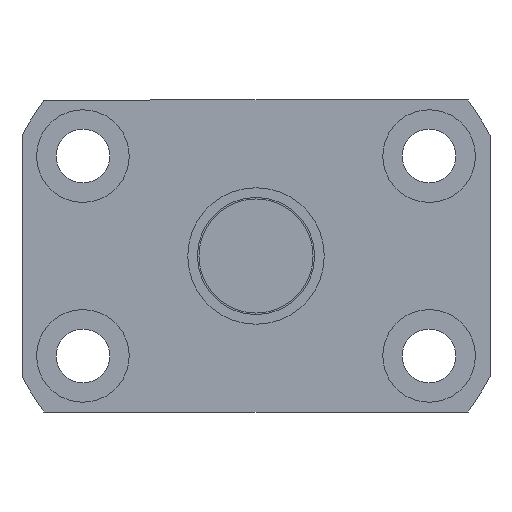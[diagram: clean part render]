
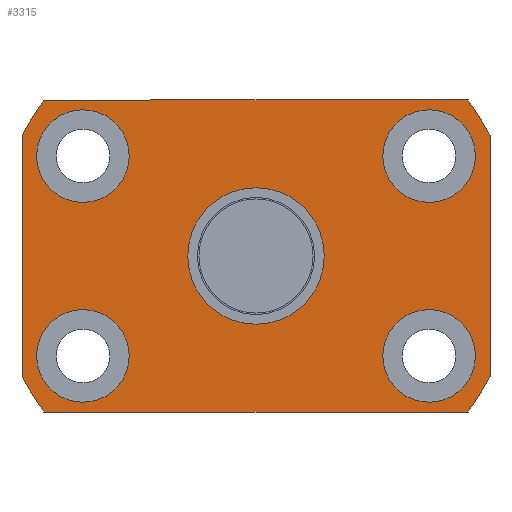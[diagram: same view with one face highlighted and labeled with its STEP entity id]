
A CAD part, left-side view. The second image highlights one B-rep face of the part: STEP entity #3315.
In plain terms, the highlighted planar face has unit normal (-1, 0, 0).
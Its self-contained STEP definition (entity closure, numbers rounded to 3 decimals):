
#479=CARTESIAN_POINT('',(302.999,22.504,-10.25));
#480=VERTEX_POINT('',#479);
#481=CARTESIAN_POINT('',(302.999,17.754,-10.25));
#482=DIRECTION('',(1.0,0.0,0.0));
#483=DIRECTION('',(0.0,1.0,0.0));
#484=AXIS2_PLACEMENT_3D('',#481,#482,#483);
#485=CIRCLE('',#484,4.75);
#486=EDGE_CURVE('',#480,#480,#485,.T.);
#547=CARTESIAN_POINT('',(302.999,-13.004,10.25));
#548=VERTEX_POINT('',#547);
#549=CARTESIAN_POINT('',(302.999,-17.754,10.25));
#550=DIRECTION('',(1.0,0.0,0.0));
#551=DIRECTION('',(0.0,1.0,0.0));
#552=AXIS2_PLACEMENT_3D('',#549,#550,#551);
#553=CIRCLE('',#552,4.75);
#554=EDGE_CURVE('',#548,#548,#553,.T.);
#615=CARTESIAN_POINT('',(302.999,22.504,10.25));
#616=VERTEX_POINT('',#615);
#617=CARTESIAN_POINT('',(302.999,17.754,10.25));
#618=DIRECTION('',(1.0,0.0,0.0));
#619=DIRECTION('',(0.0,1.0,0.0));
#620=AXIS2_PLACEMENT_3D('',#617,#618,#619);
#621=CIRCLE('',#620,4.75);
#622=EDGE_CURVE('',#616,#616,#621,.T.);
#683=CARTESIAN_POINT('',(302.999,-13.004,-10.25));
#684=VERTEX_POINT('',#683);
#685=CARTESIAN_POINT('',(302.999,-17.754,-10.25));
#686=DIRECTION('',(1.0,0.0,0.0));
#687=DIRECTION('',(0.0,1.0,0.0));
#688=AXIS2_PLACEMENT_3D('',#685,#686,#687);
#689=CIRCLE('',#688,4.75);
#690=EDGE_CURVE('',#684,#684,#689,.T.);
#3017=CARTESIAN_POINT('',(302.999,-21.749,16.));
#3018=VERTEX_POINT('',#3017);
#3025=CARTESIAN_POINT('',(302.999,-24.,12.369));
#3026=VERTEX_POINT('',#3025);
#3027=CARTESIAN_POINT('',(302.999,0.,0.0));
#3028=DIRECTION('',(1.0,0.0,0.0));
#3029=DIRECTION('',(0.0,1.0,0.0));
#3030=AXIS2_PLACEMENT_3D('',#3027,#3028,#3029);
#3031=CIRCLE('',#3030,27.0);
#3032=EDGE_CURVE('',#3018,#3026,#3031,.T.);
#3049=CARTESIAN_POINT('',(302.999,21.749,16.));
#3050=VERTEX_POINT('',#3049);
#3057=CARTESIAN_POINT('',(302.999,21.749,16.));
#3058=DIRECTION('',(0.0,-1.0,0.0));
#3059=VECTOR('',#3058,43.497);
#3060=LINE('',#3057,#3059);
#3061=EDGE_CURVE('',#3050,#3018,#3060,.T.);
#3073=CARTESIAN_POINT('',(302.999,24.,12.369));
#3074=VERTEX_POINT('',#3073);
#3081=CARTESIAN_POINT('',(302.999,0.,0.0));
#3082=DIRECTION('',(1.0,0.0,0.0));
#3083=DIRECTION('',(0.0,1.0,0.0));
#3084=AXIS2_PLACEMENT_3D('',#3081,#3082,#3083);
#3085=CIRCLE('',#3084,27.0);
#3086=EDGE_CURVE('',#3074,#3050,#3085,.T.);
#3098=CARTESIAN_POINT('',(302.999,24.,-12.369));
#3099=VERTEX_POINT('',#3098);
#3106=CARTESIAN_POINT('',(302.999,24.,-12.369));
#3107=DIRECTION('',(0.0,0.0,1.0));
#3108=VECTOR('',#3107,24.739);
#3109=LINE('',#3106,#3108);
#3110=EDGE_CURVE('',#3099,#3074,#3109,.T.);
#3122=CARTESIAN_POINT('',(302.999,21.749,-16.));
#3123=VERTEX_POINT('',#3122);
#3130=CARTESIAN_POINT('',(302.999,0.,0.0));
#3131=DIRECTION('',(1.0,0.0,0.0));
#3132=DIRECTION('',(0.0,1.0,0.0));
#3133=AXIS2_PLACEMENT_3D('',#3130,#3131,#3132);
#3134=CIRCLE('',#3133,27.0);
#3135=EDGE_CURVE('',#3123,#3099,#3134,.T.);
#3147=CARTESIAN_POINT('',(302.999,-21.749,-16.));
#3148=VERTEX_POINT('',#3147);
#3155=CARTESIAN_POINT('',(302.999,-21.749,-16.));
#3156=DIRECTION('',(0.0,1.0,0.0));
#3157=VECTOR('',#3156,43.497);
#3158=LINE('',#3155,#3157);
#3159=EDGE_CURVE('',#3148,#3123,#3158,.T.);
#3171=CARTESIAN_POINT('',(302.999,-24.,-12.369));
#3172=VERTEX_POINT('',#3171);
#3179=CARTESIAN_POINT('',(302.999,0.,0.0));
#3180=DIRECTION('',(1.0,0.0,0.0));
#3181=DIRECTION('',(0.0,1.0,0.0));
#3182=AXIS2_PLACEMENT_3D('',#3179,#3180,#3181);
#3183=CIRCLE('',#3182,27.0);
#3184=EDGE_CURVE('',#3172,#3148,#3183,.T.);
#3197=CARTESIAN_POINT('',(302.999,-24.,12.369));
#3198=DIRECTION('',(0.0,0.0,-1.0));
#3199=VECTOR('',#3198,24.739);
#3200=LINE('',#3197,#3199);
#3201=EDGE_CURVE('',#3026,#3172,#3200,.T.);
#3212=CARTESIAN_POINT('',(302.999,7.,0.0));
#3213=VERTEX_POINT('',#3212);
#3214=CARTESIAN_POINT('',(302.999,0.,0.0));
#3215=DIRECTION('',(1.0,0.0,0.0));
#3216=DIRECTION('',(0.0,1.0,0.0));
#3217=AXIS2_PLACEMENT_3D('',#3214,#3215,#3216);
#3218=CIRCLE('',#3217,7.);
#3219=EDGE_CURVE('',#3213,#3213,#3218,.T.);
#3285=CARTESIAN_POINT('',(302.999,11.,0.0));
#3286=DIRECTION('',(-1.0,0.0,0.0));
#3287=DIRECTION('',(0.0,0.0,1.0));
#3288=AXIS2_PLACEMENT_3D('',#3285,#3286,#3287);
#3289=PLANE('',#3288);
#3290=ORIENTED_EDGE('',*,*,#3110,.F.);
#3291=ORIENTED_EDGE('',*,*,#3135,.F.);
#3292=ORIENTED_EDGE('',*,*,#3159,.F.);
#3293=ORIENTED_EDGE('',*,*,#3184,.F.);
#3294=ORIENTED_EDGE('',*,*,#3201,.F.);
#3295=ORIENTED_EDGE('',*,*,#3032,.F.);
#3296=ORIENTED_EDGE('',*,*,#3061,.F.);
#3297=ORIENTED_EDGE('',*,*,#3086,.F.);
#3298=EDGE_LOOP('',(#3290,#3291,#3292,#3293,#3294,#3295,#3296,#3297));
#3299=FACE_OUTER_BOUND('',#3298,.T.);
#3300=ORIENTED_EDGE('',*,*,#486,.T.);
#3301=EDGE_LOOP('',(#3300));
#3302=FACE_BOUND('',#3301,.T.);
#3303=ORIENTED_EDGE('',*,*,#554,.T.);
#3304=EDGE_LOOP('',(#3303));
#3305=FACE_BOUND('',#3304,.T.);
#3306=ORIENTED_EDGE('',*,*,#622,.T.);
#3307=EDGE_LOOP('',(#3306));
#3308=FACE_BOUND('',#3307,.T.);
#3309=ORIENTED_EDGE('',*,*,#690,.T.);
#3310=EDGE_LOOP('',(#3309));
#3311=FACE_BOUND('',#3310,.T.);
#3312=ORIENTED_EDGE('',*,*,#3219,.T.);
#3313=EDGE_LOOP('',(#3312));
#3314=FACE_BOUND('',#3313,.T.);
#3315=ADVANCED_FACE('',(#3299,#3302,#3305,#3308,#3311,#3314),#3289,.T.);
